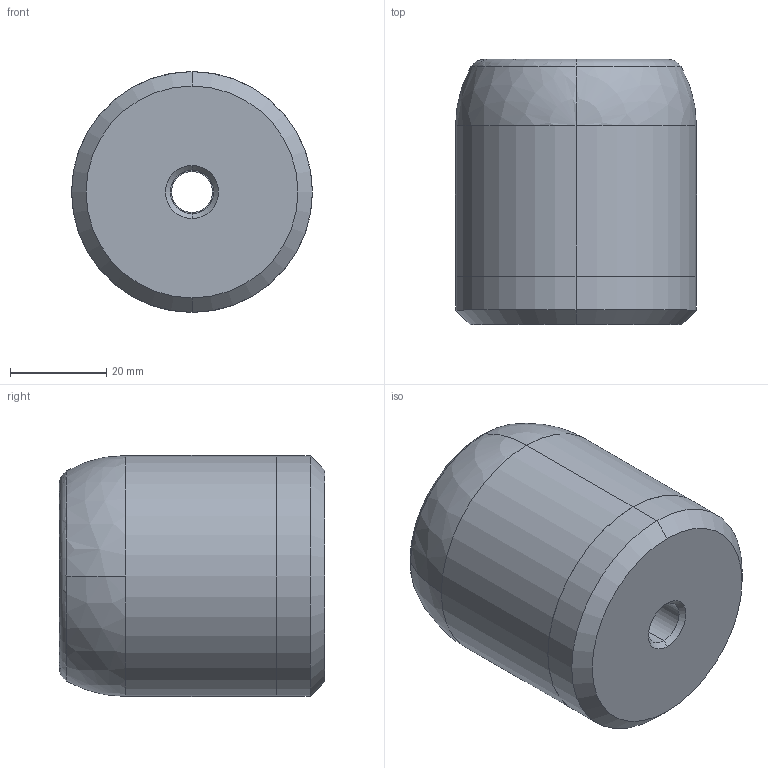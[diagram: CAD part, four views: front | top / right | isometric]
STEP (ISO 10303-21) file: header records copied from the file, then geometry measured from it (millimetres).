
FILE_DESCRIPTION(('CATIA V5 STEP Exchange'),'2;1');
FILE_NAME('C:\Users\Utente\Desktop\IO LAVORO\3D X SITO CF\X SITO\700\700-50-55.stp','2020-11-29T12:11:24+00:00',('none'),('none'),'CATIA Version 5 Release 20 GA (IN-10)','CATIA V5 STEP AP203','none');
FILE_SCHEMA(('CONFIG_CONTROL_DESIGN'));
Length unit declared in the file: millimetre
Products named in the file (1): 700-50-55
Bounding box: 50 x 55 x 50 mm (x, y, z)
Volume: 101101 mm3; surface area: 13023.4 mm2
Topology: 1 solids, 1 shells, 24 faces, 54 edges, 30 vertices
Faces by surface type: cylinder 8, cone 6, plane 4, sphere 4, torus 2
Entity records: 717 total; most frequent: CARTESIAN_POINT 168, ORIENTED_EDGE 100, DIRECTION 95, AXIS2_PLACEMENT_3D 58, EDGE_CURVE 50, CIRCLE 33, VERTEX_POINT 30, EDGE_LOOP 28
